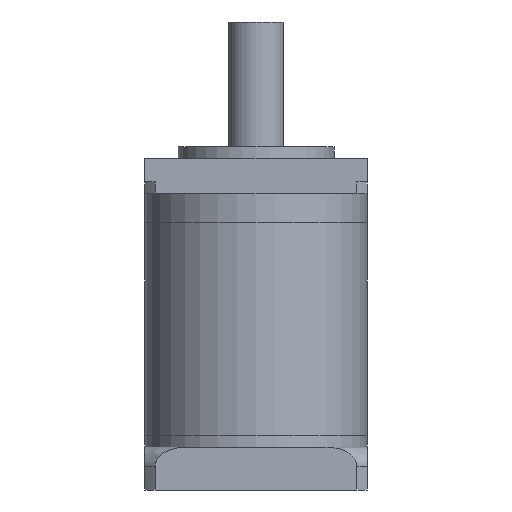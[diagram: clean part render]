
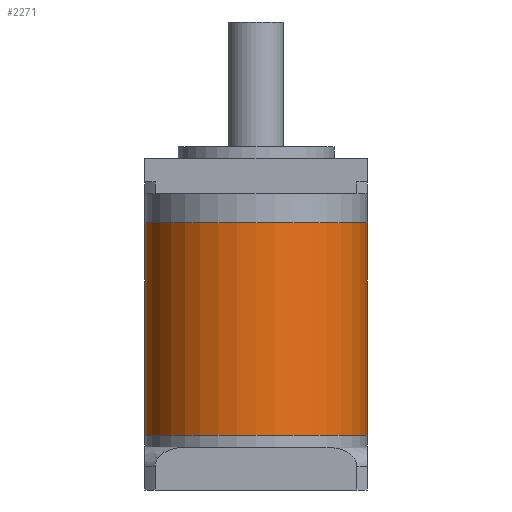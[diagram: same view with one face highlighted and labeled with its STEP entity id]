
A CAD part, front view. The second image highlights one B-rep face of the part: STEP entity #2271.
In plain terms, the highlighted cylindrical face has radius 28.5 mm (diameter 57 mm), a partial arc.
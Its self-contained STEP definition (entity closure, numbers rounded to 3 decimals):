
#350 = DIRECTION ( 'NONE',  ( 1., 0., 0. ) ) ;
#455 = FACE_OUTER_BOUND ( 'NONE', #7257, .T. ) ;
#647 = LINE ( 'NONE', #2925, #1631 ) ;
#992 = DIRECTION ( 'NONE',  ( 0., 0., 1. ) ) ;
#1606 = EDGE_CURVE ( 'NONE', #4755, #6138, #1944, .T. ) ;
#1631 = VECTOR ( 'NONE', #4585, 1000. ) ;
#1944 = CIRCLE ( 'NONE', #6635, 28.5 ) ;
#2118 = ORIENTED_EDGE ( 'NONE', *, *, #2173, .T. ) ;
#2173 = EDGE_CURVE ( 'NONE', #2263, #4020, #2631, .T. ) ;
#2263 = VERTEX_POINT ( 'NONE', #7227 ) ;
#2271 = ADVANCED_FACE ( 'NONE', ( #455 ), #5994, .T. ) ;
#2631 = CIRCLE ( 'NONE', #3926, 28.5 ) ;
#2925 = CARTESIAN_POINT ( 'NONE',  ( 28.5, 0., 68.5 ) ) ;
#3036 = CARTESIAN_POINT ( 'NONE',  ( -28.5, 0., 68.5 ) ) ;
#3040 = EDGE_CURVE ( 'NONE', #4755, #2263, #5582, .T. ) ;
#3267 = ORIENTED_EDGE ( 'NONE', *, *, #1606, .F. ) ;
#3288 = CARTESIAN_POINT ( 'NONE',  ( -28.5, 0., 68.5 ) ) ;
#3837 = CARTESIAN_POINT ( 'NONE',  ( 0., 0., 68.5 ) ) ;
#3926 = AXIS2_PLACEMENT_3D ( 'NONE', #7014, #4260, #350 ) ;
#3933 = AXIS2_PLACEMENT_3D ( 'NONE', #3837, #7263, #7159 ) ;
#4020 = VERTEX_POINT ( 'NONE', #7063 ) ;
#4260 = DIRECTION ( 'NONE',  ( 0., 0., 1. ) ) ;
#4585 = DIRECTION ( 'NONE',  ( 0., 0., -1. ) ) ;
#4755 = VERTEX_POINT ( 'NONE', #3036 ) ;
#4886 = DIRECTION ( 'NONE',  ( 1., 0., 0. ) ) ;
#5545 = DIRECTION ( 'NONE',  ( 0., 0., -1. ) ) ;
#5582 = LINE ( 'NONE', #3288, #7118 ) ;
#5869 = ORIENTED_EDGE ( 'NONE', *, *, #3040, .T. ) ;
#5994 = CYLINDRICAL_SURFACE ( 'NONE', #3933, 28.5 ) ;
#6014 = CARTESIAN_POINT ( 'NONE',  ( 0., 0., 68.5 ) ) ;
#6138 = VERTEX_POINT ( 'NONE', #7024 ) ;
#6179 = EDGE_CURVE ( 'NONE', #6138, #4020, #647, .T. ) ;
#6231 = ORIENTED_EDGE ( 'NONE', *, *, #6179, .F. ) ;
#6635 = AXIS2_PLACEMENT_3D ( 'NONE', #6014, #992, #4886 ) ;
#7014 = CARTESIAN_POINT ( 'NONE',  ( 0., 0., 14. ) ) ;
#7024 = CARTESIAN_POINT ( 'NONE',  ( 28.5, 0., 68.5 ) ) ;
#7063 = CARTESIAN_POINT ( 'NONE',  ( 28.5, 0., 14. ) ) ;
#7118 = VECTOR ( 'NONE', #5545, 1000. ) ;
#7159 = DIRECTION ( 'NONE',  ( -1., 0., 0. ) ) ;
#7227 = CARTESIAN_POINT ( 'NONE',  ( -28.5, 0., 14. ) ) ;
#7257 = EDGE_LOOP ( 'NONE', ( #6231, #3267, #5869, #2118 ) ) ;
#7263 = DIRECTION ( 'NONE',  ( 0., 0., -1. ) ) ;
